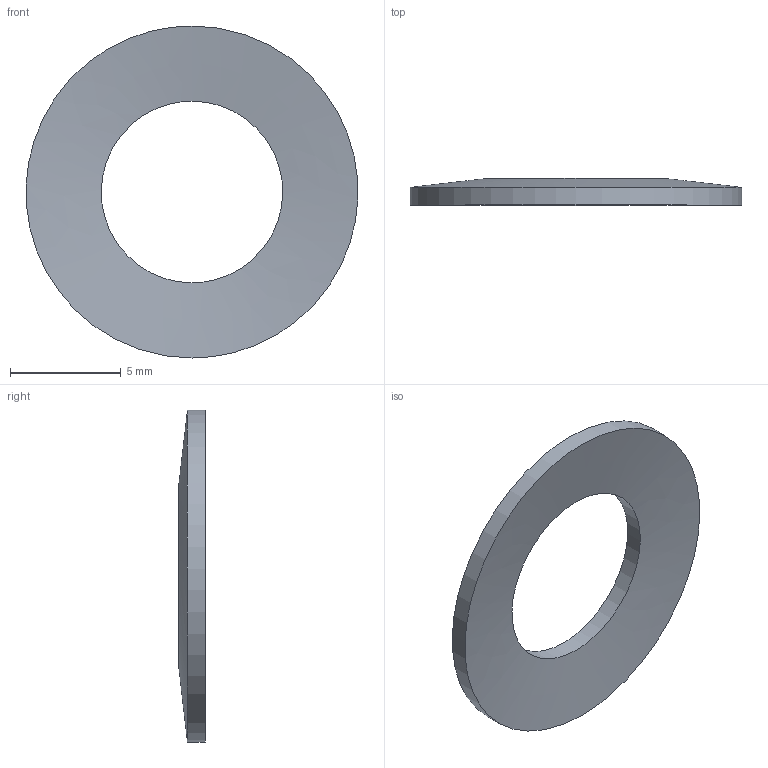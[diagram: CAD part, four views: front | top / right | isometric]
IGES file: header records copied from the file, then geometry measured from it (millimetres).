
Global section: file name: ST.0150.0082.0080; native system: Autodesk Inventor 2026; preprocessor: unknown; author: J. Iwanek; date: 20260918.102625; units: millimetre
Bounding box: 14.99 x 1.2 x 15 mm (x, y, z)
Volume: 99.8 mm3; surface area: 308.3 mm2
Topology: 1 solids, 1 shells, 4 faces, 12 edges, 8 vertices
Faces by surface type: bspline 4
